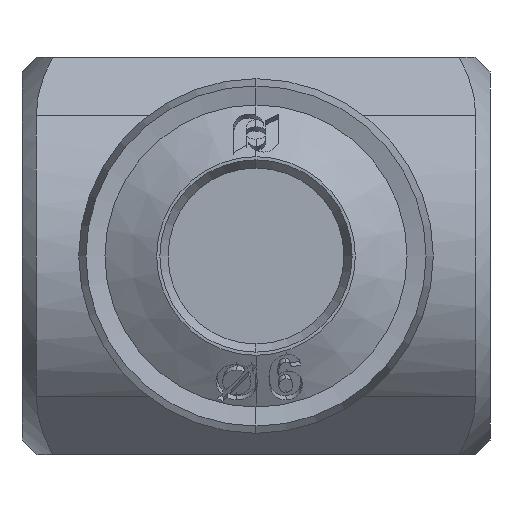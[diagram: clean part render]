
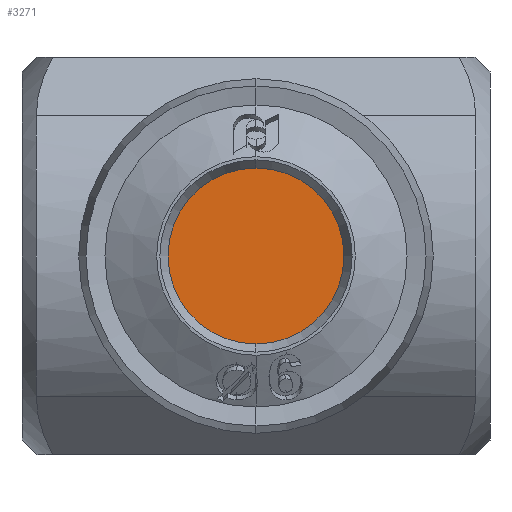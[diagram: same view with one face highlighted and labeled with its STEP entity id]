
A CAD part, left-side view. The second image highlights one B-rep face of the part: STEP entity #3271.
In plain terms, the highlighted planar face has unit normal (-1, 0, 0).
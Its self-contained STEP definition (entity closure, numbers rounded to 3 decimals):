
#270 = CARTESIAN_POINT ( 'NONE',  ( -18., 8.25, 0. ) ) ;
#271 = DIRECTION ( 'NONE',  ( 1., 0., 0. ) ) ;
#272 = DIRECTION ( 'NONE',  ( 0., 0., -1. ) ) ;
#2904 = EDGE_LOOP ( 'NONE', ( #4372, #9386 ) ) ;
#3271 = ADVANCED_FACE ( 'NONE', ( #16116 ), #11343, .F. ) ;
#3354 = AXIS2_PLACEMENT_3D ( 'NONE', #10782, #10783, #10784 ) ;
#4372 = ORIENTED_EDGE ( 'NONE', *, *, #15679, .F. ) ;
#5992 = CIRCLE ( 'NONE', #7983, 3.1 ) ;
#6272 = VERTEX_POINT ( 'NONE', #10501 ) ;
#6281 = VERTEX_POINT ( 'NONE', #10499 ) ;
#7983 = AXIS2_PLACEMENT_3D ( 'NONE', #270, #271, #272 ) ;
#8046 = EDGE_CURVE ( 'NONE', #6281, #6272, #14077, .T. ) ;
#9386 = ORIENTED_EDGE ( 'NONE', *, *, #8046, .F. ) ;
#9624 = AXIS2_PLACEMENT_3D ( 'NONE', #11351, #11352, #11353 ) ;
#10499 = CARTESIAN_POINT ( 'NONE',  ( -18., 8.25, -3.1 ) ) ;
#10501 = CARTESIAN_POINT ( 'NONE',  ( -18., 8.25, 3.1 ) ) ;
#10782 = CARTESIAN_POINT ( 'NONE',  ( -18., 8.25, 0. ) ) ;
#10783 = DIRECTION ( 'NONE',  ( 1., 0., 0. ) ) ;
#10784 = DIRECTION ( 'NONE',  ( 0., 0., -1. ) ) ;
#11343 = PLANE ( 'NONE',  #9624 ) ;
#11351 = CARTESIAN_POINT ( 'NONE',  ( -18., 8.25, 0. ) ) ;
#11352 = DIRECTION ( 'NONE',  ( 1., 0., 0. ) ) ;
#11353 = DIRECTION ( 'NONE',  ( 0., 0., 1. ) ) ;
#14077 = CIRCLE ( 'NONE', #3354, 3.1 ) ;
#15679 = EDGE_CURVE ( 'NONE', #6272, #6281, #5992, .T. ) ;
#16116 = FACE_OUTER_BOUND ( 'NONE', #2904, .T. ) ;
